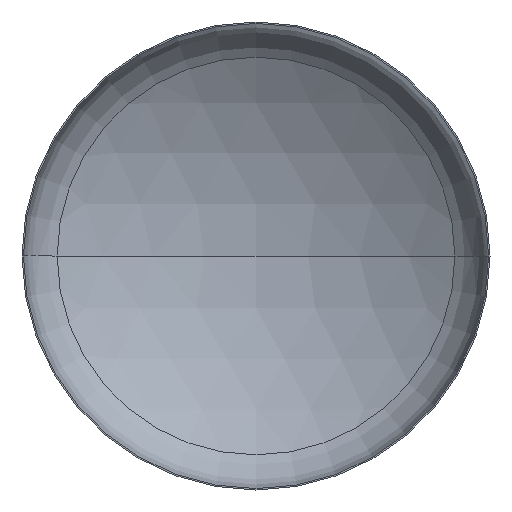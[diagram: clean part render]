
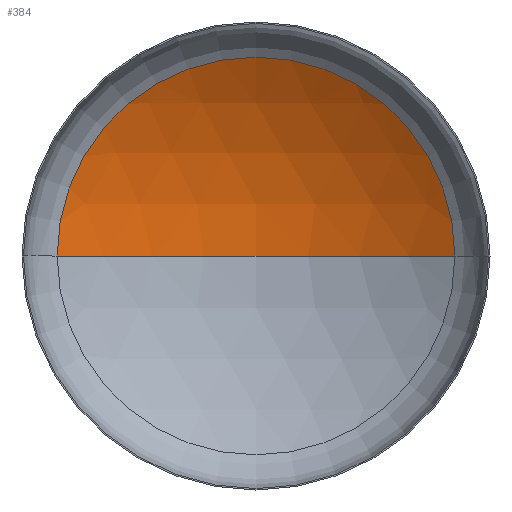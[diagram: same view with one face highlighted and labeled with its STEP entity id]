
A CAD part, front view. The second image highlights one B-rep face of the part: STEP entity #384.
In plain terms, the highlighted spherical face has radius 6400 mm.
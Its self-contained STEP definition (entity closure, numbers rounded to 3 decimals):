
#3 = VERTEX_POINT ( 'NONE', #268 ) ;
#31 = ORIENTED_EDGE ( 'NONE', *, *, #113, .T. ) ;
#32 = VERTEX_POINT ( 'NONE', #259 ) ;
#33 = CARTESIAN_POINT ( 'NONE',  ( 0., 2094.545, 0. ) ) ;
#54 = AXIS2_PLACEMENT_3D ( 'NONE', #250, #247, #372 ) ;
#56 = AXIS2_PLACEMENT_3D ( 'NONE', #206, #181, #183 ) ;
#57 = VERTEX_POINT ( 'NONE', #33 ) ;
#62 = AXIS2_PLACEMENT_3D ( 'NONE', #218, #216, #217 ) ;
#89 = ORIENTED_EDGE ( 'NONE', *, *, #117, .T. ) ;
#90 = DIRECTION ( 'NONE',  ( 0., 0., -1. ) ) ;
#113 = EDGE_CURVE ( 'NONE', #3, #32, #391, .T. ) ;
#117 = EDGE_CURVE ( 'NONE', #57, #3, #228, .T. ) ;
#119 = EDGE_CURVE ( 'NONE', #57, #32, #280, .T. ) ;
#140 = SPHERICAL_SURFACE ( 'NONE', #233, 6400. ) ;
#141 = EDGE_LOOP ( 'NONE', ( #144, #89, #31 ) ) ;
#144 = ORIENTED_EDGE ( 'NONE', *, *, #119, .F. ) ;
#157 = FACE_OUTER_BOUND ( 'NONE', #141, .T. ) ;
#181 = DIRECTION ( 'NONE',  ( 0., 0., -1. ) ) ;
#183 = DIRECTION ( 'NONE',  ( -1., 0., 0. ) ) ;
#206 = CARTESIAN_POINT ( 'NONE',  ( 0., -4305.455, 0. ) ) ;
#216 = DIRECTION ( 'NONE',  ( 0., -1., 0. ) ) ;
#217 = DIRECTION ( 'NONE',  ( 1., 0., 0. ) ) ;
#218 = CARTESIAN_POINT ( 'NONE',  ( 0., 1117.158, 0. ) ) ;
#228 = CIRCLE ( 'NONE', #56, 6400. ) ;
#233 = AXIS2_PLACEMENT_3D ( 'NONE', #358, #90, #317 ) ;
#247 = DIRECTION ( 'NONE',  ( 0., 0., 1. ) ) ;
#250 = CARTESIAN_POINT ( 'NONE',  ( 0., -4305.455, 0. ) ) ;
#259 = CARTESIAN_POINT ( 'NONE',  ( -3399.304, 1117.158, 0. ) ) ;
#268 = CARTESIAN_POINT ( 'NONE',  ( 3399.304, 1117.158, 0. ) ) ;
#280 = CIRCLE ( 'NONE', #54, 6400. ) ;
#317 = DIRECTION ( 'NONE',  ( -1., 0., 0. ) ) ;
#358 = CARTESIAN_POINT ( 'NONE',  ( 0., -4305.455, 0. ) ) ;
#372 = DIRECTION ( 'NONE',  ( 1., 0., 0. ) ) ;
#384 = ADVANCED_FACE ( 'NONE', ( #157 ), #140, .F. ) ;
#391 = CIRCLE ( 'NONE', #62, 3399.304 ) ;
